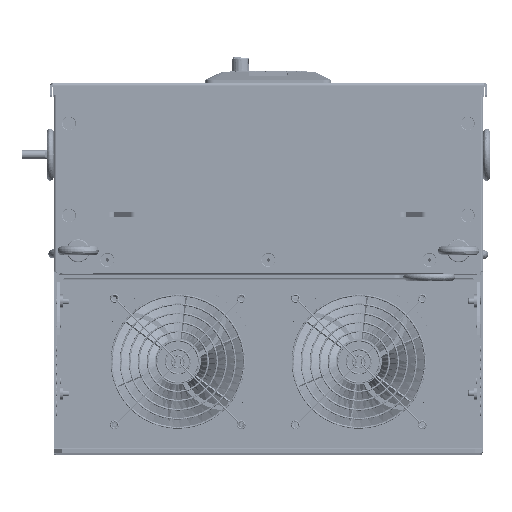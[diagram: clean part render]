
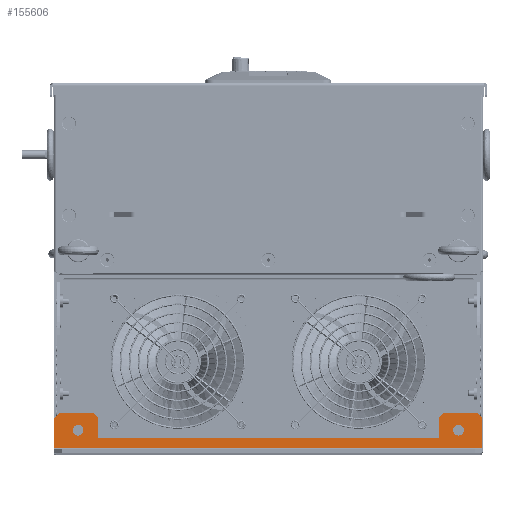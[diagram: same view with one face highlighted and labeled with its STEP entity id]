
A CAD part, top view. The second image highlights one B-rep face of the part: STEP entity #155606.
In plain terms, the highlighted planar face has unit normal (0, 0, 1).
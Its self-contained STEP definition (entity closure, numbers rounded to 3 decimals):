
#76 = LINE ( 'NONE', #55871, #167987 ) ;
#10267 = EDGE_CURVE ( 'NONE', #98097, #171916, #82264, .T. ) ;
#13137 = CARTESIAN_POINT ( 'NONE',  ( 277.178, 63.062, -134.365 ) ) ;
#13188 = ORIENTED_EDGE ( 'NONE', *, *, #173402, .T. ) ;
#13505 = VERTEX_POINT ( 'NONE', #153261 ) ;
#13679 = DIRECTION ( 'NONE',  ( 1., 0., 0. ) ) ;
#16045 = ORIENTED_EDGE ( 'NONE', *, *, #47468, .F. ) ;
#16196 = CARTESIAN_POINT ( 'NONE',  ( 305.678, 86.062, -134.365 ) ) ;
#16259 = DIRECTION ( 'NONE',  ( 1., 0., 0. ) ) ;
#19272 = ORIENTED_EDGE ( 'NONE', *, *, #20346, .T. ) ;
#19686 = EDGE_CURVE ( 'NONE', #13505, #120606, #117182, .T. ) ;
#19865 = CARTESIAN_POINT ( 'NONE',  ( 289.178, 78.062, -134.365 ) ) ;
#20346 = EDGE_CURVE ( 'NONE', #146076, #87622, #64461, .T. ) ;
#21073 = VERTEX_POINT ( 'NONE', #19865 ) ;
#21920 = CARTESIAN_POINT ( 'NONE',  ( 277.178, 66.299, -134.365 ) ) ;
#21923 = VERTEX_POINT ( 'NONE', #24416 ) ;
#22364 = VERTEX_POINT ( 'NONE', #83648 ) ;
#23203 = CARTESIAN_POINT ( 'NONE',  ( 305.678, 103.062, -134.365 ) ) ;
#24416 = CARTESIAN_POINT ( 'NONE',  ( 305.678, 73.062, -134.365 ) ) ;
#24773 = ORIENTED_EDGE ( 'NONE', *, *, #166832, .F. ) ;
#25384 = CARTESIAN_POINT ( 'NONE',  ( 540.678, 78.062, -134.365 ) ) ;
#25888 = FACE_OUTER_BOUND ( 'NONE', #181848, .T. ) ;
#27248 = DIRECTION ( 'NONE',  ( 0., 0., 1. ) ) ;
#28568 = DIRECTION ( 'NONE',  ( -1., 0., 0. ) ) ;
#30287 = AXIS2_PLACEMENT_3D ( 'NONE', #25384, #27248, #84809 ) ;
#30410 = ORIENTED_EDGE ( 'NONE', *, *, #138279, .F. ) ;
#32670 = DIRECTION ( 'NONE',  ( 0., 1., 0. ) ) ;
#32835 = VERTEX_POINT ( 'NONE', #142865 ) ;
#33821 = VECTOR ( 'NONE', #88562, 1000. ) ;
#38225 = VECTOR ( 'NONE', #130484, 1000. ) ;
#38991 = EDGE_CURVE ( 'NONE', #21073, #61321, #144150, .T. ) ;
#44182 = ORIENTED_EDGE ( 'NONE', *, *, #124965, .F. ) ;
#44320 = AXIS2_PLACEMENT_3D ( 'NONE', #170771, #154035, #128026 ) ;
#44471 = EDGE_CURVE ( 'NONE', #175504, #169132, #177541, .T. ) ;
#47468 = EDGE_CURVE ( 'NONE', #61321, #21073, #102580, .T. ) ;
#48602 = CARTESIAN_POINT ( 'NONE',  ( 277.178, 89.062, -134.365 ) ) ;
#48742 = CARTESIAN_POINT ( 'NONE',  ( 277.178, 89.062, -134.365 ) ) ;
#48845 = ORIENTED_EDGE ( 'NONE', *, *, #44471, .T. ) ;
#50517 = VERTEX_POINT ( 'NONE', #174308 ) ;
#50539 = DIRECTION ( 'NONE',  ( -0.707, 0.707, 0. ) ) ;
#50872 = EDGE_CURVE ( 'NONE', #98097, #169132, #97676, .T. ) ;
#51462 = CIRCLE ( 'NONE', #151979, 3.5 ) ;
#52921 = LINE ( 'NONE', #23203, #111023 ) ;
#55871 = CARTESIAN_POINT ( 'NONE',  ( 556.178, 86.062, -134.365 ) ) ;
#56842 = ORIENTED_EDGE ( 'NONE', *, *, #19686, .F. ) ;
#57032 = ORIENTED_EDGE ( 'NONE', *, *, #180642, .T. ) ;
#58142 = DIRECTION ( 'NONE',  ( 0., 0., 1. ) ) ;
#60783 = ORIENTED_EDGE ( 'NONE', *, *, #159923, .F. ) ;
#61139 = AXIS2_PLACEMENT_3D ( 'NONE', #166136, #167948, #13679 ) ;
#61321 = VERTEX_POINT ( 'NONE', #148084 ) ;
#62660 = LINE ( 'NONE', #48742, #84223 ) ;
#64461 = LINE ( 'NONE', #121085, #132836 ) ;
#64883 = ORIENTED_EDGE ( 'NONE', *, *, #10267, .T. ) ;
#68599 = CARTESIAN_POINT ( 'NONE',  ( 305.678, 73.062, -134.365 ) ) ;
#68670 = PLANE ( 'NONE',  #44320 ) ;
#70189 = VERTEX_POINT ( 'NONE', #99774 ) ;
#70862 = VECTOR ( 'NONE', #32670, 1000. ) ;
#75901 = AXIS2_PLACEMENT_3D ( 'NONE', #90579, #58142, #16259 ) ;
#77600 = CARTESIAN_POINT ( 'NONE',  ( 556.178, 66.299, -134.365 ) ) ;
#79107 = CARTESIAN_POINT ( 'NONE',  ( 280.178, 89.062, -134.365 ) ) ;
#80150 = CARTESIAN_POINT ( 'NONE',  ( 277.178, 66.299, -134.365 ) ) ;
#81330 = DIRECTION ( 'NONE',  ( 1., 0., 0. ) ) ;
#81414 = EDGE_LOOP ( 'NONE', ( #16045, #145938 ) ) ;
#82264 = LINE ( 'NONE', #21920, #123904 ) ;
#83648 = CARTESIAN_POINT ( 'NONE',  ( 556.178, 86.062, -134.365 ) ) ;
#84223 = VECTOR ( 'NONE', #145287, 1000. ) ;
#84809 = DIRECTION ( 'NONE',  ( -1., 0., 0. ) ) ;
#87622 = VERTEX_POINT ( 'NONE', #132223 ) ;
#87688 = CARTESIAN_POINT ( 'NONE',  ( 544.178, 78.062, -134.365 ) ) ;
#88562 = DIRECTION ( 'NONE',  ( -0.707, -0.707, 0. ) ) ;
#90579 = CARTESIAN_POINT ( 'NONE',  ( 292.678, 78.062, -134.365 ) ) ;
#92139 = DIRECTION ( 'NONE',  ( -0.707, -0.707, 0. ) ) ;
#95593 = DIRECTION ( 'NONE',  ( 0., -1., 0. ) ) ;
#96374 = LINE ( 'NONE', #68599, #112740 ) ;
#97676 = LINE ( 'NONE', #13137, #118530 ) ;
#98097 = VERTEX_POINT ( 'NONE', #80150 ) ;
#99064 = CARTESIAN_POINT ( 'NONE',  ( 540.678, 78.062, -134.365 ) ) ;
#99774 = CARTESIAN_POINT ( 'NONE',  ( 537.178, 78.062, -134.365 ) ) ;
#102580 = CIRCLE ( 'NONE', #61139, 3.5 ) ;
#110342 = CIRCLE ( 'NONE', #30287, 3.5 ) ;
#111023 = VECTOR ( 'NONE', #95593, 1000. ) ;
#112205 = CARTESIAN_POINT ( 'NONE',  ( 277.178, 86.062, -134.365 ) ) ;
#112740 = VECTOR ( 'NONE', #125199, 1000. ) ;
#114264 = ORIENTED_EDGE ( 'NONE', *, *, #50872, .F. ) ;
#117182 = LINE ( 'NONE', #159885, #70862 ) ;
#117312 = ORIENTED_EDGE ( 'NONE', *, *, #148414, .F. ) ;
#118230 = LINE ( 'NONE', #48602, #144574 ) ;
#118530 = VECTOR ( 'NONE', #141347, 1000. ) ;
#120606 = VERTEX_POINT ( 'NONE', #143238 ) ;
#121085 = CARTESIAN_POINT ( 'NONE',  ( 305.678, 86.062, -134.365 ) ) ;
#122326 = ORIENTED_EDGE ( 'NONE', *, *, #143045, .T. ) ;
#123904 = VECTOR ( 'NONE', #81330, 1000. ) ;
#124378 = FACE_BOUND ( 'NONE', #176888, .T. ) ;
#124965 = EDGE_CURVE ( 'NONE', #70189, #183864, #51462, .T. ) ;
#125199 = DIRECTION ( 'NONE',  ( 1., 0., 0. ) ) ;
#128026 = DIRECTION ( 'NONE',  ( -1., 0., 0. ) ) ;
#128218 = VECTOR ( 'NONE', #92139, 1000. ) ;
#129156 = DIRECTION ( 'NONE',  ( -0.707, 0.707, 0. ) ) ;
#130336 = CARTESIAN_POINT ( 'NONE',  ( 527.678, 86.062, -134.365 ) ) ;
#130484 = DIRECTION ( 'NONE',  ( 0., 1., 0. ) ) ;
#132223 = CARTESIAN_POINT ( 'NONE',  ( 302.678, 89.062, -134.365 ) ) ;
#132836 = VECTOR ( 'NONE', #50539, 1000. ) ;
#138279 = EDGE_CURVE ( 'NONE', #32835, #50517, #62660, .T. ) ;
#141347 = DIRECTION ( 'NONE',  ( 0., 1., 0. ) ) ;
#142865 = CARTESIAN_POINT ( 'NONE',  ( 530.678, 89.062, -134.365 ) ) ;
#143045 = EDGE_CURVE ( 'NONE', #171916, #22364, #146215, .T. ) ;
#143238 = CARTESIAN_POINT ( 'NONE',  ( 527.678, 86.062, -134.365 ) ) ;
#144150 = CIRCLE ( 'NONE', #75901, 3.5 ) ;
#144574 = VECTOR ( 'NONE', #178514, 1000. ) ;
#145287 = DIRECTION ( 'NONE',  ( 1., 0., 0. ) ) ;
#145938 = ORIENTED_EDGE ( 'NONE', *, *, #38991, .F. ) ;
#146076 = VERTEX_POINT ( 'NONE', #16196 ) ;
#146215 = LINE ( 'NONE', #159257, #38225 ) ;
#148084 = CARTESIAN_POINT ( 'NONE',  ( 296.178, 78.062, -134.365 ) ) ;
#148414 = EDGE_CURVE ( 'NONE', #21923, #13505, #96374, .T. ) ;
#151979 = AXIS2_PLACEMENT_3D ( 'NONE', #99064, #155736, #28568 ) ;
#153261 = CARTESIAN_POINT ( 'NONE',  ( 527.678, 73.062, -134.365 ) ) ;
#153411 = EDGE_CURVE ( 'NONE', #175504, #87622, #118230, .T. ) ;
#154035 = DIRECTION ( 'NONE',  ( 0., 0., -1. ) ) ;
#155606 = ADVANCED_FACE ( 'NONE', ( #124378, #169863, #25888 ), #68670, .F. ) ;
#155736 = DIRECTION ( 'NONE',  ( 0., 0., 1. ) ) ;
#158737 = CARTESIAN_POINT ( 'NONE',  ( 280.178, 89.062, -134.365 ) ) ;
#159257 = CARTESIAN_POINT ( 'NONE',  ( 556.178, 63.062, -134.365 ) ) ;
#159885 = CARTESIAN_POINT ( 'NONE',  ( 527.678, 103.062, -134.365 ) ) ;
#159923 = EDGE_CURVE ( 'NONE', #146076, #21923, #52921, .T. ) ;
#166136 = CARTESIAN_POINT ( 'NONE',  ( 292.678, 78.062, -134.365 ) ) ;
#166832 = EDGE_CURVE ( 'NONE', #183864, #70189, #110342, .T. ) ;
#167948 = DIRECTION ( 'NONE',  ( 0., 0., 1. ) ) ;
#167987 = VECTOR ( 'NONE', #129156, 1000. ) ;
#169132 = VERTEX_POINT ( 'NONE', #112205 ) ;
#169863 = FACE_BOUND ( 'NONE', #81414, .T. ) ;
#170771 = CARTESIAN_POINT ( 'NONE',  ( 277.178, 63.062, -134.365 ) ) ;
#171916 = VERTEX_POINT ( 'NONE', #77600 ) ;
#173402 = EDGE_CURVE ( 'NONE', #22364, #50517, #76, .T. ) ;
#174308 = CARTESIAN_POINT ( 'NONE',  ( 553.178, 89.062, -134.365 ) ) ;
#175504 = VERTEX_POINT ( 'NONE', #158737 ) ;
#175813 = LINE ( 'NONE', #130336, #33821 ) ;
#176888 = EDGE_LOOP ( 'NONE', ( #24773, #44182 ) ) ;
#177541 = LINE ( 'NONE', #79107, #128218 ) ;
#178514 = DIRECTION ( 'NONE',  ( 1., 0., 0. ) ) ;
#180642 = EDGE_CURVE ( 'NONE', #32835, #120606, #175813, .T. ) ;
#180937 = ORIENTED_EDGE ( 'NONE', *, *, #153411, .F. ) ;
#181848 = EDGE_LOOP ( 'NONE', ( #122326, #13188, #30410, #57032, #56842, #117312, #60783, #19272, #180937, #48845, #114264, #64883 ) ) ;
#183864 = VERTEX_POINT ( 'NONE', #87688 ) ;
